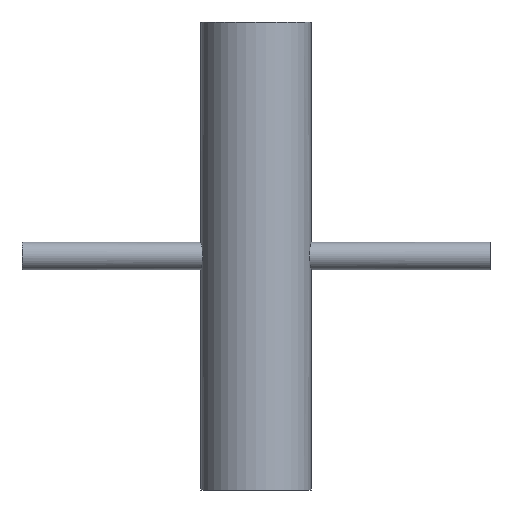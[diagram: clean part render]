
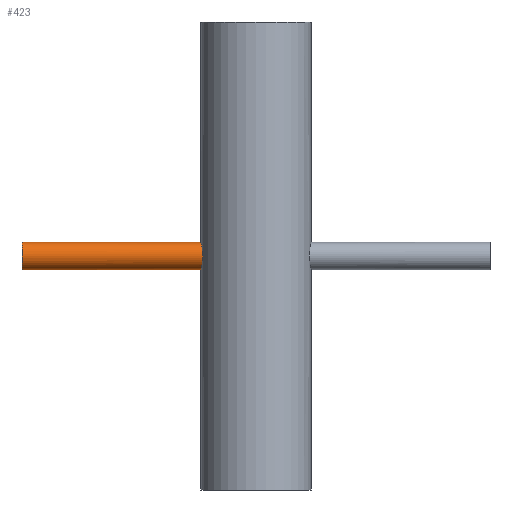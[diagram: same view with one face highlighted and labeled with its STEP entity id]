
A CAD part, front view. The second image highlights one B-rep face of the part: STEP entity #423.
In plain terms, the highlighted cylindrical face has radius 3.175 mm (diameter 6.35 mm), a partial arc.
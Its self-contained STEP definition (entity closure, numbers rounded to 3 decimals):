
#1 = CARTESIAN_POINT ( 'NONE',  ( -12.7, -0.211, -3.175 ) ) ;
#20 = EDGE_CURVE ( 'NONE', #534, #52, #245, .T. ) ;
#32 = B_SPLINE_CURVE_WITH_KNOTS ( 'NONE', 3,
 ( #468, #228, #698, #342, #761, #408, #53, #470, #115, #530, #171, #584, #229, #640, #289, #700, #346, #764, #412, #55, #474, #118, #532, #173, #589, #232, #642, #294, #704, #349, #1, #418 ),
 .UNSPECIFIED., .F., .F.,
 ( 4, 2, 2, 2, 2, 2, 2, 2, 2, 2, 2, 2, 2, 2, 2, 4 ),
 ( 0., 0.001, 0.001, 0.002, 0.002, 0.003, 0.004, 0.004, 0.005, 0.006, 0.006, 0.007, 0.008, 0.009, 0.009, 0.01 ),
 .UNSPECIFIED. ) ;
#52 = VERTEX_POINT ( 'NONE', #619 ) ;
#53 = CARTESIAN_POINT ( 'NONE',  ( -12.601, -1.593, 2.755 ) ) ;
#55 = CARTESIAN_POINT ( 'NONE',  ( -12.323, -3.073, -0.824 ) ) ;
#63 = CARTESIAN_POINT ( 'NONE',  ( -12.7, 0., -3.175 ) ) ;
#98 = DIRECTION ( 'NONE',  ( 0., 0., -1. ) ) ;
#115 = CARTESIAN_POINT ( 'NONE',  ( -12.526, -2.099, 2.391 ) ) ;
#118 = CARTESIAN_POINT ( 'NONE',  ( -12.395, -2.774, -1.601 ) ) ;
#168 = AXIS2_PLACEMENT_3D ( 'NONE', #607, #183, #611 ) ;
#171 = CARTESIAN_POINT ( 'NONE',  ( -12.448, -2.522, 1.94 ) ) ;
#173 = CARTESIAN_POINT ( 'NONE',  ( -12.526, -2.099, -2.391 ) ) ;
#183 = DIRECTION ( 'NONE',  ( 1., 0., 0. ) ) ;
#201 = VERTEX_POINT ( 'NONE', #63 ) ;
#206 = CARTESIAN_POINT ( 'NONE',  ( -53.975, 0., 3.175 ) ) ;
#215 = ORIENTED_EDGE ( 'NONE', *, *, #20, .F. ) ;
#228 = CARTESIAN_POINT ( 'NONE',  ( -12.7, -0.211, 3.175 ) ) ;
#229 = CARTESIAN_POINT ( 'NONE',  ( -12.376, -2.852, 1.41 ) ) ;
#232 = CARTESIAN_POINT ( 'NONE',  ( -12.6, -1.597, -2.752 ) ) ;
#245 = LINE ( 'NONE', #206, #547 ) ;
#268 = CARTESIAN_POINT ( 'NONE',  ( -53.975, 0., 0. ) ) ;
#276 = CARTESIAN_POINT ( 'NONE',  ( -53.975, 0., 3.175 ) ) ;
#286 = AXIS2_PLACEMENT_3D ( 'NONE', #268, #683, #98 ) ;
#289 = CARTESIAN_POINT ( 'NONE',  ( -12.323, -3.072, 0.827 ) ) ;
#294 = CARTESIAN_POINT ( 'NONE',  ( -12.66, -1.028, -3.011 ) ) ;
#299 = ORIENTED_EDGE ( 'NONE', *, *, #520, .T. ) ;
#342 = CARTESIAN_POINT ( 'NONE',  ( -12.675, -0.824, 3.073 ) ) ;
#344 = EDGE_CURVE ( 'NONE', #615, #201, #573, .T. ) ;
#346 = CARTESIAN_POINT ( 'NONE',  ( -12.297, -3.175, 0.211 ) ) ;
#349 = CARTESIAN_POINT ( 'NONE',  ( -12.695, -0.421, -3.154 ) ) ;
#408 = CARTESIAN_POINT ( 'NONE',  ( -12.623, -1.411, 2.852 ) ) ;
#412 = CARTESIAN_POINT ( 'NONE',  ( -12.302, -3.154, -0.416 ) ) ;
#415 = VECTOR ( 'NONE', #676, 1000. ) ;
#418 = CARTESIAN_POINT ( 'NONE',  ( -12.7, 0., -3.175 ) ) ;
#423 = ADVANCED_FACE ( 'NONE', ( #686 ), #668, .T. ) ;
#426 = ORIENTED_EDGE ( 'NONE', *, *, #662, .F. ) ;
#455 = ORIENTED_EDGE ( 'NONE', *, *, #344, .T. ) ;
#468 = CARTESIAN_POINT ( 'NONE',  ( -12.7, 0., 3.175 ) ) ;
#470 = CARTESIAN_POINT ( 'NONE',  ( -12.553, -1.937, 2.524 ) ) ;
#474 = CARTESIAN_POINT ( 'NONE',  ( -12.338, -3.013, -1.023 ) ) ;
#520 = EDGE_CURVE ( 'NONE', #534, #615, #659, .T. ) ;
#522 = DIRECTION ( 'NONE',  ( 1., 0., 0. ) ) ;
#530 = CARTESIAN_POINT ( 'NONE',  ( -12.474, -2.391, 2.099 ) ) ;
#532 = CARTESIAN_POINT ( 'NONE',  ( -12.447, -2.54, -1.95 ) ) ;
#534 = VERTEX_POINT ( 'NONE', #276 ) ;
#547 = VECTOR ( 'NONE', #522, 1000. ) ;
#573 = LINE ( 'NONE', #663, #415 ) ;
#584 = CARTESIAN_POINT ( 'NONE',  ( -12.398, -2.754, 1.593 ) ) ;
#589 = CARTESIAN_POINT ( 'NONE',  ( -12.552, -1.94, -2.522 ) ) ;
#607 = CARTESIAN_POINT ( 'NONE',  ( -53.975, 0., 0. ) ) ;
#611 = DIRECTION ( 'NONE',  ( 0., 0., -1. ) ) ;
#615 = VERTEX_POINT ( 'NONE', #651 ) ;
#619 = CARTESIAN_POINT ( 'NONE',  ( -12.7, 0., 3.175 ) ) ;
#640 = CARTESIAN_POINT ( 'NONE',  ( -12.338, -3.011, 1.028 ) ) ;
#642 = CARTESIAN_POINT ( 'NONE',  ( -12.623, -1.411, -2.852 ) ) ;
#651 = CARTESIAN_POINT ( 'NONE',  ( -53.975, 0., -3.175 ) ) ;
#659 = CIRCLE ( 'NONE', #286, 3.175 ) ;
#662 = EDGE_CURVE ( 'NONE', #52, #201, #32, .T. ) ;
#663 = CARTESIAN_POINT ( 'NONE',  ( -53.975, 0., -3.175 ) ) ;
#668 = CYLINDRICAL_SURFACE ( 'NONE', #168, 3.175 ) ;
#676 = DIRECTION ( 'NONE',  ( 1., 0., 0. ) ) ;
#683 = DIRECTION ( 'NONE',  ( 1., 0., 0. ) ) ;
#686 = FACE_OUTER_BOUND ( 'NONE', #753, .T. ) ;
#698 = CARTESIAN_POINT ( 'NONE',  ( -12.695, -0.418, 3.154 ) ) ;
#700 = CARTESIAN_POINT ( 'NONE',  ( -12.302, -3.154, 0.417 ) ) ;
#704 = CARTESIAN_POINT ( 'NONE',  ( -12.674, -0.83, -3.072 ) ) ;
#753 = EDGE_LOOP ( 'NONE', ( #215, #299, #455, #426 ) ) ;
#761 = CARTESIAN_POINT ( 'NONE',  ( -12.66, -1.026, 3.012 ) ) ;
#764 = CARTESIAN_POINT ( 'NONE',  ( -12.297, -3.175, -0.205 ) ) ;
